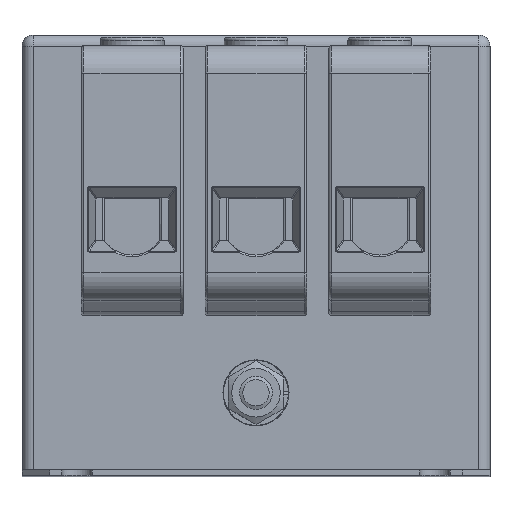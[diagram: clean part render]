
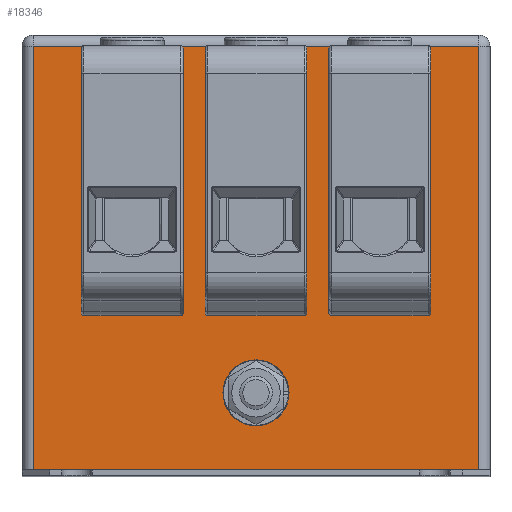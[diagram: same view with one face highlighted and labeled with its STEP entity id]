
A CAD part, top view. The second image highlights one B-rep face of the part: STEP entity #18346.
In plain terms, the highlighted planar face has unit normal (0, 0, 1).
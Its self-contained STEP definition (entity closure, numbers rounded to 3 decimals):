
#9976=CARTESIAN_POINT('',(13.75,-10.5,70.));
#9977=VERTEX_POINT('',#9976);
#9995=CARTESIAN_POINT('',(13.75,37.5,70.));
#9996=VERTEX_POINT('',#9995);
#10004=CARTESIAN_POINT('',(13.75,-10.5,70.0));
#10005=DIRECTION('',(0.0,1.0,0.0));
#10006=VECTOR('',#10005,48.);
#10007=LINE('',#10004,#10006);
#10008=EDGE_CURVE('',#9977,#9996,#10007,.T.);
#10290=CARTESIAN_POINT('',(31.25,37.5,70.));
#10291=VERTEX_POINT('',#10290);
#10299=CARTESIAN_POINT('',(13.75,37.5,70.0));
#10300=DIRECTION('',(1.0,0.0,0.0));
#10301=VECTOR('',#10300,17.5);
#10302=LINE('',#10299,#10301);
#10303=EDGE_CURVE('',#9996,#10291,#10302,.T.);
#10613=CARTESIAN_POINT('',(31.25,-10.5,70.));
#10614=VERTEX_POINT('',#10613);
#10622=CARTESIAN_POINT('',(31.25,37.5,70.0));
#10623=DIRECTION('',(0.0,-1.0,0.0));
#10624=VECTOR('',#10623,48.);
#10625=LINE('',#10622,#10624);
#10626=EDGE_CURVE('',#10291,#10614,#10625,.T.);
#10773=CARTESIAN_POINT('',(13.75,-10.5,70.0));
#10774=DIRECTION('',(1.0,0.0,0.0));
#10775=VECTOR('',#10774,17.5);
#10776=LINE('',#10773,#10775);
#10777=EDGE_CURVE('',#9977,#10614,#10776,.T.);
#12673=CARTESIAN_POINT('',(-8.75,-10.5,70.));
#12674=VERTEX_POINT('',#12673);
#12692=CARTESIAN_POINT('',(-8.75,37.5,70.));
#12693=VERTEX_POINT('',#12692);
#12701=CARTESIAN_POINT('',(-8.75,-10.5,70.0));
#12702=DIRECTION('',(0.0,1.0,0.0));
#12703=VECTOR('',#12702,48.);
#12704=LINE('',#12701,#12703);
#12705=EDGE_CURVE('',#12674,#12693,#12704,.T.);
#12987=CARTESIAN_POINT('',(8.75,37.5,70.));
#12988=VERTEX_POINT('',#12987);
#12996=CARTESIAN_POINT('',(-8.75,37.5,70.0));
#12997=DIRECTION('',(1.0,0.0,0.0));
#12998=VECTOR('',#12997,17.5);
#12999=LINE('',#12996,#12998);
#13000=EDGE_CURVE('',#12693,#12988,#12999,.T.);
#13310=CARTESIAN_POINT('',(8.75,-10.5,70.));
#13311=VERTEX_POINT('',#13310);
#13319=CARTESIAN_POINT('',(8.75,37.5,70.0));
#13320=DIRECTION('',(0.0,-1.0,0.0));
#13321=VECTOR('',#13320,48.);
#13322=LINE('',#13319,#13321);
#13323=EDGE_CURVE('',#12988,#13311,#13322,.T.);
#13470=CARTESIAN_POINT('',(-8.75,-10.5,70.0));
#13471=DIRECTION('',(1.0,0.0,0.0));
#13472=VECTOR('',#13471,17.5);
#13473=LINE('',#13470,#13472);
#13474=EDGE_CURVE('',#12674,#13311,#13473,.T.);
#15369=CARTESIAN_POINT('',(-31.25,-10.5,70.));
#15370=VERTEX_POINT('',#15369);
#15388=CARTESIAN_POINT('',(-31.25,37.5,70.));
#15389=VERTEX_POINT('',#15388);
#15397=CARTESIAN_POINT('',(-31.25,-10.5,70.0));
#15398=DIRECTION('',(0.0,1.0,0.0));
#15399=VECTOR('',#15398,48.);
#15400=LINE('',#15397,#15399);
#15401=EDGE_CURVE('',#15370,#15389,#15400,.T.);
#15683=CARTESIAN_POINT('',(-13.75,37.5,70.));
#15684=VERTEX_POINT('',#15683);
#15692=CARTESIAN_POINT('',(-31.25,37.5,70.0));
#15693=DIRECTION('',(1.0,0.0,0.0));
#15694=VECTOR('',#15693,17.5);
#15695=LINE('',#15692,#15694);
#15696=EDGE_CURVE('',#15389,#15684,#15695,.T.);
#16006=CARTESIAN_POINT('',(-13.75,-10.5,70.));
#16007=VERTEX_POINT('',#16006);
#16015=CARTESIAN_POINT('',(-13.75,37.5,70.0));
#16016=DIRECTION('',(0.0,-1.0,0.0));
#16017=VECTOR('',#16016,48.);
#16018=LINE('',#16015,#16017);
#16019=EDGE_CURVE('',#15684,#16007,#16018,.T.);
#16166=CARTESIAN_POINT('',(-31.25,-10.5,70.0));
#16167=DIRECTION('',(1.0,0.0,0.0));
#16168=VECTOR('',#16167,17.5);
#16169=LINE('',#16166,#16168);
#16170=EDGE_CURVE('',#15370,#16007,#16169,.T.);
#16382=CARTESIAN_POINT('',(5.525,-25.,70.0));
#16383=VERTEX_POINT('',#16382);
#16384=CARTESIAN_POINT('',(0.,-25.,70.0));
#16385=DIRECTION('',(0.0,0.0,-1.0));
#16386=DIRECTION('',(1.0,0.0,0.0));
#16387=AXIS2_PLACEMENT_3D('',#16384,#16385,#16386);
#16388=CIRCLE('',#16387,5.525);
#16389=EDGE_CURVE('',#16383,#16383,#16388,.T.);
#17492=CARTESIAN_POINT('',(40.5,-39.,70.0));
#17493=VERTEX_POINT('',#17492);
#17501=CARTESIAN_POINT('',(-40.5,-39.0,70.0));
#17502=VERTEX_POINT('',#17501);
#17503=CARTESIAN_POINT('',(-40.5,-39.0,70.0));
#17504=DIRECTION('',(1.0,0.0,0.0));
#17505=VECTOR('',#17504,81.0);
#17506=LINE('',#17503,#17505);
#17507=EDGE_CURVE('',#17502,#17493,#17506,.T.);
#18241=CARTESIAN_POINT('',(-40.5,38.,70.0));
#18242=VERTEX_POINT('',#18241);
#18243=CARTESIAN_POINT('',(-40.5,-39.0,70.0));
#18244=DIRECTION('',(0.0,1.0,0.0));
#18245=VECTOR('',#18244,77.);
#18246=LINE('',#18243,#18245);
#18247=EDGE_CURVE('',#17502,#18242,#18246,.T.);
#18283=CARTESIAN_POINT('',(40.5,38.,70.0));
#18284=VERTEX_POINT('',#18283);
#18285=CARTESIAN_POINT('',(-40.5,38.,70.0));
#18286=DIRECTION('',(1.0,0.0,0.0));
#18287=VECTOR('',#18286,81.);
#18288=LINE('',#18285,#18287);
#18289=EDGE_CURVE('',#18242,#18284,#18288,.T.);
#18309=CARTESIAN_POINT('',(0.,0.,70.0));
#18310=DIRECTION('',(0.0,0.0,1.0));
#18311=DIRECTION('',(1.0,0.0,0.0));
#18312=AXIS2_PLACEMENT_3D('',#18309,#18310,#18311);
#18313=PLANE('',#18312);
#18314=ORIENTED_EDGE('',*,*,#18247,.F.);
#18315=ORIENTED_EDGE('',*,*,#17507,.T.);
#18316=CARTESIAN_POINT('',(40.5,38.,70.0));
#18317=DIRECTION('',(0.0,-1.0,0.0));
#18318=VECTOR('',#18317,77.);
#18319=LINE('',#18316,#18318);
#18320=EDGE_CURVE('',#18284,#17493,#18319,.T.);
#18321=ORIENTED_EDGE('',*,*,#18320,.F.);
#18322=ORIENTED_EDGE('',*,*,#18289,.F.);
#18323=EDGE_LOOP('',(#18314,#18315,#18321,#18322));
#18324=FACE_OUTER_BOUND('',#18323,.T.);
#18325=ORIENTED_EDGE('',*,*,#10008,.T.);
#18326=ORIENTED_EDGE('',*,*,#10303,.T.);
#18327=ORIENTED_EDGE('',*,*,#10626,.T.);
#18328=ORIENTED_EDGE('',*,*,#10777,.F.);
#18329=EDGE_LOOP('',(#18325,#18326,#18327,#18328));
#18330=FACE_BOUND('',#18329,.T.);
#18331=ORIENTED_EDGE('',*,*,#12705,.T.);
#18332=ORIENTED_EDGE('',*,*,#13000,.T.);
#18333=ORIENTED_EDGE('',*,*,#13323,.T.);
#18334=ORIENTED_EDGE('',*,*,#13474,.F.);
#18335=EDGE_LOOP('',(#18331,#18332,#18333,#18334));
#18336=FACE_BOUND('',#18335,.T.);
#18337=ORIENTED_EDGE('',*,*,#15401,.T.);
#18338=ORIENTED_EDGE('',*,*,#15696,.T.);
#18339=ORIENTED_EDGE('',*,*,#16019,.T.);
#18340=ORIENTED_EDGE('',*,*,#16170,.F.);
#18341=EDGE_LOOP('',(#18337,#18338,#18339,#18340));
#18342=FACE_BOUND('',#18341,.T.);
#18343=ORIENTED_EDGE('',*,*,#16389,.T.);
#18344=EDGE_LOOP('',(#18343));
#18345=FACE_BOUND('',#18344,.T.);
#18346=ADVANCED_FACE('',(#18324,#18330,#18336,#18342,#18345),#18313,.T.);
